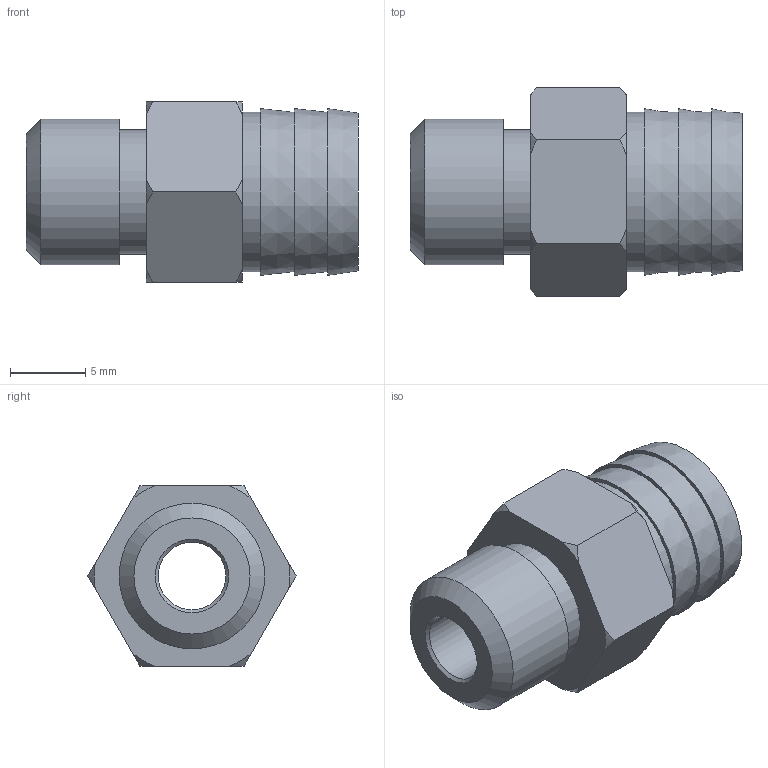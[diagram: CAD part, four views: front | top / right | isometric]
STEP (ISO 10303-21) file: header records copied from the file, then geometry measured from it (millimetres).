
FILE_DESCRIPTION(('STEP AP214'),'1');
FILE_NAME('CA.08.09.011.stp','2019-04-18T06:01:19',(' '),(' '),'Spatial InterOp 3D',' ',' ');
FILE_SCHEMA(('AUTOMOTIVE_DESIGN { 1 0 10303 214 1 1 1 1 }'));
Length unit declared in the file: metre
Products named in the file (1): CA.08.09.011
Bounding box: 22.1 x 13.86 x 12 mm (x, y, z)
Volume: 1692.5 mm3; surface area: 1333.2 mm2
Topology: 1 solids, 1 shells, 36 faces, 84 edges, 56 vertices
Faces by surface type: cone 18, plane 14, cylinder 4
Full cylindrical faces by diameter (mm): 4.5 x1, 8.3 x1, 9.7 x1, 10.6 x1
Entity records: 1272 total; most frequent: CARTESIAN_POINT 213, DIRECTION 150, ORIENTED_EDGE 142, EDGE_CURVE 71, AXIS2_PLACEMENT_3D 66, EDGE_LOOP 54, VERTEX_POINT 53, FACE_OUTER_BOUND 40
